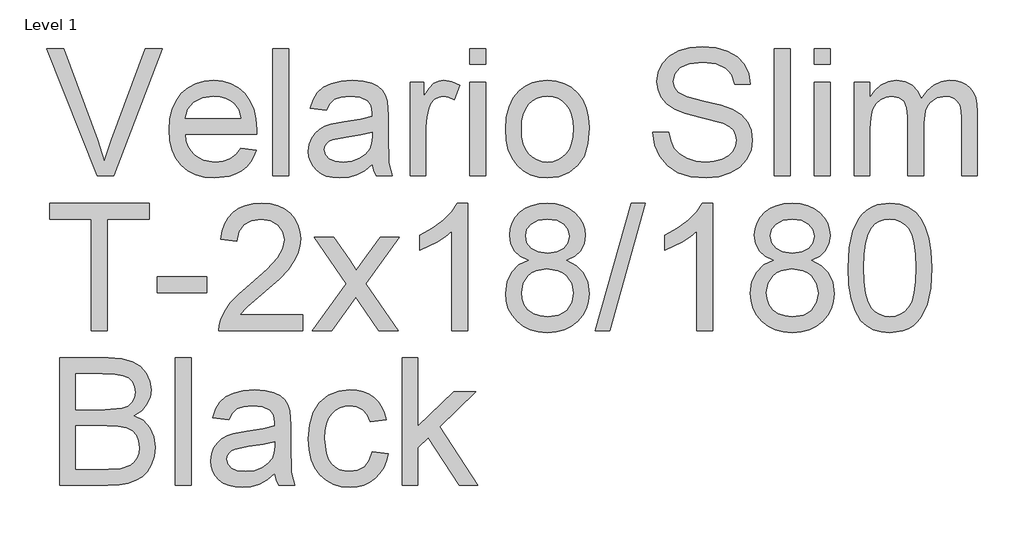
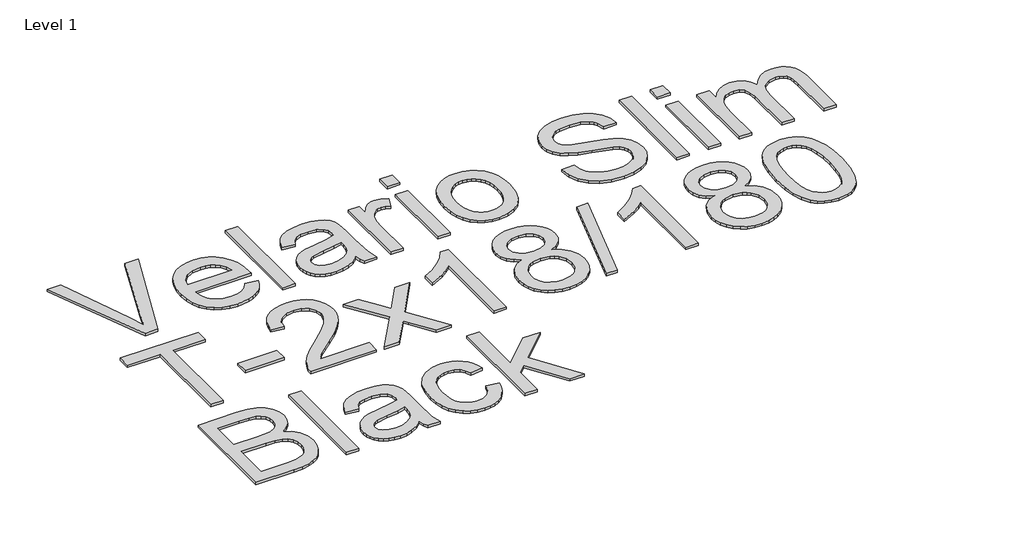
# One storey, part 12 of 13: 1 proxy.
"""IFC4 building model written with IfcOpenShell, lengths in millimetres."""

from ifc_helpers import new_model, si_unit, frame, origin, place, context, project, spatial, polyline, outline, extrude, element, save

model = new_model("IFC4")

# Units and contexts
model_context = context("Model", 3, world=origin())
ifc_project = project(units=[si_unit("LENGTHUNIT", "METRE", prefix="MILLI")], contexts=[model_context])

# Site, building, storey
site = spatial("IfcSite", under=ifc_project)
building = spatial("IfcBuilding", under=site)
storey = spatial("IfcBuildingStorey", under=building, Name="Level 1", Elevation=4000.0)

# Proxy
placement = place(None, origin())
element("IfcBuildingElementProxy", 1, Name="Elysium 400mm Arial", ObjectType="Elysium 400mm Arial", at=placement, inside=storey, context=model_context, shape_type="SweptSolid", body=[
    extrude(outline(polyline([(64801.8504181, -17959.2083158), (64641.9443775, -17557.3830752), (64695.7041998, -17557.3830752), (64802.7333349, -17846.8816799), (64824.4138471, -17912.1194204), (64845.8000538, -17846.8816799), (64953.1234945, -17557.3830752), (65006.8833168, -17557.3830752), (64853.7463049, -17959.2083158), (64801.8504181, -17959.2083158)])), frame((0.0, 0.0, 4000.0), z_axis=(0.0, 0.0, 1.0), x_axis=(1.0, 0.0, 0.0)), (0.0, 0.0, 1.0), 10.0),
    extrude(outline(polyline([(65253.9038138, -17871.3090444), (65303.1509502, -17877.5875638), (65295.6001723, -17897.3121701), (65285.4067753, -17914.6945943), (65272.5707594, -17929.7348366), (65257.0921244, -17942.4328968), (65239.130286, -17952.5189948), (65218.8446596, -17959.7233505), (65171.3020431, -17965.4868351), (65140.1363068, -17963.000566), (65112.3673475, -17955.5417585), (65087.9951653, -17943.1104128), (65067.0197602, -17925.7065287), (65050.1523708, -17903.8144843), (65038.1042354, -17877.9186575), (65030.8753542, -17848.0190484), (65028.4657271, -17814.1156569), (65030.8998797, -17779.0626341), (65038.2023373, -17748.1666779), (65050.3731, -17721.4277882), (65067.4121677, -17698.845965), (65088.3323905, -17680.9055864), (65112.1466183, -17668.0910302), (65138.8548512, -17660.4022965), (65168.457089, -17657.8393853), (65197.1058994, -17660.3961652), (65223.0139889, -17668.0665048), (65246.1813576, -17680.8504041), (65266.6080054, -17698.7478632), (65283.2822568, -17721.2806354), (65295.1924364, -17747.9704741), (65302.3385441, -17778.8173794), (65304.7205801, -17813.8213513), (65304.4262745, -17827.3594087), (65078.6938822, -17827.3594087), (65081.6032157, -17847.402846), (65087.38816, -17864.9569486), (65096.0487153, -17880.0217163), (65107.5848816, -17892.5971492), (65121.3589966, -17902.5115689), (65136.7333983, -17909.5932973), (65172.2830618, -17915.2586801), (65199.0158201, -17912.6344552), (65221.5301982, -17904.7617805), (65239.8261961, -17891.1501466), (65253.9038138, -17871.3090444)]), holes=[polyline([(65078.6938822, -17777.1312536), (65254.492425, -17777.1312536), (65247.6988708, -17750.594699), (65234.3815426, -17731.6119881), (65220.6840696, -17721.3112922), (65205.0981358, -17713.9536523), (65187.623741, -17709.5390684), (65168.2608853, -17708.0675404), (65134.403479, -17712.7641672), (65106.4076592, -17726.8540476), (65086.9467016, -17748.8166027), (65078.6938822, -17777.1312536)])]), frame((0.0, 0.0, 4000.0), z_axis=(0.0, 0.0, 1.0), x_axis=(1.0, 0.0, 0.0)), (0.0, 0.0, 1.0), 10.0),
    extrude(outline(polyline([(65354.9487351, -17959.2083158), (65354.9487351, -17557.3830752), (65405.1768902, -17557.3830752), (65405.1768902, -17959.2083158), (65354.9487351, -17959.2083158)])), frame((0.0, 0.0, 4000.0), z_axis=(0.0, 0.0, 1.0), x_axis=(1.0, 0.0, 0.0)), (0.0, 0.0, 1.0), 10.0),
    extrude(outline(polyline([(65668.8747043, -17921.5371994), (65644.8765355, -17942.1140657), (65620.1671282, -17955.5785467), (65594.1823966, -17963.009763), (65566.358255, -17965.4868351), (65543.9940954, -17963.9969131), (65524.3829194, -17959.5271468), (65507.5247269, -17952.0775364), (65493.4195181, -17941.6480818), (65482.2818907, -17928.9009707), (65474.3264426, -17914.4983906), (65469.5531737, -17898.4403415), (65467.962084, -17880.7268234), (65470.3655797, -17859.9047025), (65477.5760669, -17840.995568), (65488.6983658, -17824.8087602), (65502.8372972, -17812.1536195), (65519.4533006, -17802.5886877), (65538.0068159, -17795.6725062), (65581.4659423, -17788.1186625), (65632.8222688, -17780.1724114), (65668.5803987, -17770.8527342), (65668.8747043, -17759.6691216), (65665.4166136, -17737.2528453), (65655.0423413, -17722.5866165), (65631.8412502, -17711.6973094), (65599.5166855, -17708.0675404), (65569.5956166, -17710.4832988), (65548.6999193, -17717.7305741), (65534.4506233, -17731.1337415), (65524.4687585, -17752.0171761), (65474.2406034, -17745.7386567), (65482.9594067, -17718.2701344), (65495.9701666, -17696.687724), (65514.4868937, -17680.1820851), (65539.7235986, -17667.9438774), (65570.588898, -17660.3655083), (65605.9914086, -17657.8393853), (65639.9469168, -17660.0712027), (65666.8636161, -17666.7666551), (65687.1584395, -17676.834359), (65701.2483199, -17689.1829313), (65710.5925226, -17704.4500341), (65716.6503128, -17723.2733295), (65719.1028594, -17767.2229652), (65719.1028594, -17829.7138534), (65721.6535079, -17916.9754627), (65731.6598982, -17959.2083158), (65681.4317431, -17959.2083158), (65673.3873902, -17941.7461837), (65668.8747043, -17921.5371994)]), holes=[polyline([(65668.8747043, -17821.0808893), (65635.1276627, -17829.4440733), (65587.8425635, -17836.4828822), (65544.6286918, -17844.625337), (65533.3837655, -17850.1926178), (65525.0573697, -17857.8690888), (65519.9070218, -17867.0661387), (65518.1902391, -17877.1951563), (65521.9303727, -17892.1311653), (65533.1507736, -17904.369373), (65551.606187, -17912.5363533), (65577.0513583, -17915.2586801), (65604.0293713, -17912.2543104), (65627.8681246, -17903.2412016), (65647.1941921, -17889.9606615), (65660.6341477, -17874.1539985), (65666.593836, -17857.8690888), (65668.5803987, -17835.3056598), (65668.8747043, -17821.0808893)])]), frame((0.0, 0.0, 4000.0), z_axis=(0.0, 0.0, 1.0), x_axis=(1.0, 0.0, 0.0)), (0.0, 0.0, 1.0), 10.0),
    extrude(outline(polyline([(65788.1665726, -17959.2083158), (65788.1665726, -17664.1179047), (65832.1162083, -17664.1179047), (65832.1162083, -17707.7732348), (65848.3520671, -17682.4629535), (65863.3126015, -17667.55147), (65878.3221869, -17660.2674065), (65894.7051984, -17657.8393853), (65919.7211741, -17661.714409), (65945.1295573, -17673.33948), (65928.3541383, -17718.3682362), (65910.6958025, -17710.6427143), (65893.0374667, -17708.0675404), (65878.0401441, -17710.5446125), (65864.6369767, -17717.9758288), (65853.8089833, -17729.7971036), (65846.5371825, -17745.4443511), (65840.4303414, -17773.5014846), (65838.3947277, -17804.1092666), (65838.3947277, -17959.2083158), (65788.1665726, -17959.2083158)])), frame((0.0, 0.0, 4000.0), z_axis=(0.0, 0.0, 1.0), x_axis=(1.0, 0.0, 0.0)), (0.0, 0.0, 1.0), 10.0),
    extrude(outline(polyline([(65976.5221542, -17607.6112302), (65976.5221542, -17557.3830752), (66026.7503093, -17557.3830752), (66026.7503093, -17607.6112302), (65976.5221542, -17607.6112302)])), frame((0.0, 0.0, 4000.0), z_axis=(0.0, 0.0, 1.0), x_axis=(1.0, 0.0, 0.0)), (0.0, 0.0, 1.0), 10.0),
    extrude(outline(polyline([(65976.5221542, -17959.2083158), (65976.5221542, -17664.1179047), (66026.7503093, -17664.1179047), (66026.7503093, -17959.2083158), (65976.5221542, -17959.2083158)])), frame((0.0, 0.0, 4000.0), z_axis=(0.0, 0.0, 1.0), x_axis=(1.0, 0.0, 0.0)), (0.0, 0.0, 1.0), 10.0),
    extrude(outline(polyline([(66089.5355031, -17811.6631102), (66092.2516985, -17773.4463023), (66100.4002847, -17740.5147324), (66113.9812617, -17712.8684004), (66132.9946295, -17690.5073065), (66152.1367559, -17676.215091), (66173.2654452, -17666.0063656), (66196.3806972, -17659.8811304), (66221.482512, -17657.8393853), (66249.1932233, -17660.3256545), (66274.2490529, -17667.7844619), (66296.6500007, -17680.2158077), (66316.3960668, -17697.6196917), (66332.5123639, -17719.4075029), (66344.0240046, -17744.99063), (66350.9309891, -17774.369073), (66353.2333172, -17807.5428319), (66349.1620898, -17858.2860217), (66336.9484076, -17896.9136312), (66316.9478898, -17925.8414188), (66289.5161557, -17947.4851428), (66256.9340736, -17960.9864121), (66221.482512, -17965.4868351), (66193.3671306, -17963.009763), (66168.0783091, -17955.5785467), (66145.6160476, -17943.1931862), (66125.9803461, -17925.8536815), (66110.0357273, -17903.8543382), (66098.6467138, -17877.4894619), (66091.8133058, -17846.7590526), (66089.5355031, -17811.6631102)]), holes=[polyline([(66139.7636582, -17811.5650084), (66141.2167921, -17835.9279935), (66145.5761937, -17857.0229602), (66152.8418631, -17874.8499086), (66163.0138003, -17889.4088385), (66175.386898, -17900.7181442), (66189.2560493, -17908.7962197), (66204.6212539, -17913.643065), (66221.482512, -17915.2586801), (66238.257931, -17913.6338679), (66253.561822, -17908.7594315), (66267.394185, -17900.6353708), (66279.7550201, -17889.2616857), (66289.9269572, -17874.5586687), (66297.1926266, -17856.4466118), (66301.5520283, -17834.925515), (66303.0051622, -17809.9953785), (66301.5428312, -17786.4049456), (66297.1558384, -17765.8618018), (66289.8441838, -17748.3659473), (66279.6078673, -17733.9173819), (66267.201047, -17722.6080762), (66253.377881, -17714.5300008), (66238.1383694, -17709.6831555), (66221.482512, -17708.0675404), (66204.6212539, -17709.6770241), (66189.2560493, -17714.5054753), (66175.386898, -17722.5528939), (66163.0138003, -17733.81928), (66152.8418631, -17748.3352904), (66145.5761937, -17766.1315819), (66141.2167921, -17787.2081546), (66139.7636582, -17811.5650084)])]), frame((0.0, 0.0, 4000.0), z_axis=(0.0, 0.0, 1.0), x_axis=(1.0, 0.0, 0.0)), (0.0, 0.0, 1.0), 10.0),
    extrude(outline(polyline([(66554.1459375, -17821.0808893), (66604.3740926, -17821.0808893), (66610.1375772, -17848.9540818), (66620.5609004, -17871.3580953), (66636.8212846, -17889.1390584), (66660.0959521, -17903.1430997), (66688.5454931, -17912.229785), (66720.3304975, -17915.2586801), (66748.3140546, -17912.965549), (66772.8149955, -17906.0861556), (66792.6683605, -17895.1968486), (66806.70919, -17880.8739762), (66815.0601112, -17864.4296511), (66817.8437517, -17847.1759855), (66815.759087, -17830.3637783), (66809.5050931, -17815.8324395), (66796.8009016, -17803.4348163), (66775.365644, -17793.0237558), (66702.2307033, -17773.8448411), (66654.222103, -17761.1529123), (66623.5039564, -17749.0741201), (66598.5002434, -17732.1760738), (66580.780594, -17711.6973094), (66570.2223807, -17688.0792853), (66566.7029763, -17661.7634599), (66571.0562466, -17632.345163), (66584.1160574, -17604.9134289), (66605.5390523, -17581.6632868), (66634.9818746, -17564.789766), (66670.3230716, -17554.5258583), (66709.4411904, -17551.1045558), (66751.8211963, -17554.6852739), (66788.9037014, -17565.4274281), (66819.3643306, -17583.1102893), (66841.8787087, -17607.5131284), (66856.1280046, -17637.1153662), (66861.7933874, -17670.3964241), (66811.5652323, -17670.3964241), (66802.3436569, -17640.4263042), (66793.9804729, -17628.5682412), (66783.1156913, -17618.7948429), (66753.0719951, -17605.6982439), (66711.4032277, -17601.3327108), (66668.7534418, -17605.6491929), (66652.450138, -17611.0447955), (66639.4945604, -17618.5986391), (66622.5719886, -17637.6549265), (66616.9311314, -17660.2919319), (66620.9287824, -17679.5934739), (66632.9217354, -17695.1180941), (66661.2731745, -17708.9995081), (66714.9348949, -17723.1752276), (66770.3133979, -17736.6397087), (66803.8151849, -17748.387407), (66832.4486669, -17766.6098285), (66852.4246592, -17789.0996812), (66864.1600949, -17815.6117103), (66868.0719068, -17845.9006612), (66863.5714837, -17876.8640625), (66850.0702145, -17905.9880538), (66828.1199221, -17931.0530804), (66798.2724295, -17949.8395876), (66762.3794095, -17961.5750233), (66722.2925348, -17965.4868351), (66673.0821866, -17961.2684549), (66632.5783789, -17948.6133143), (66600.3151279, -17927.4723623), (66575.8264498, -17897.796548), (66560.1056259, -17861.6460106), (66554.1459375, -17821.0808893)])), frame((0.0, 0.0, 4000.0), z_axis=(0.0, 0.0, 1.0), x_axis=(1.0, 0.0, 0.0)), (0.0, 0.0, 1.0), 10.0),
    extrude(outline(polyline([(66937.13562, -17959.2083158), (66937.13562, -17557.3830752), (66987.3637751, -17557.3830752), (66987.3637751, -17959.2083158), (66937.13562, -17959.2083158)])), frame((0.0, 0.0, 4000.0), z_axis=(0.0, 0.0, 1.0), x_axis=(1.0, 0.0, 0.0)), (0.0, 0.0, 1.0), 10.0),
    extrude(outline(polyline([(67062.7060077, -17607.6112302), (67062.7060077, -17557.3830752), (67112.9341627, -17557.3830752), (67112.9341627, -17607.6112302), (67062.7060077, -17607.6112302)])), frame((0.0, 0.0, 4000.0), z_axis=(0.0, 0.0, 1.0), x_axis=(1.0, 0.0, 0.0)), (0.0, 0.0, 1.0), 10.0),
    extrude(outline(polyline([(67062.7060077, -17959.2083158), (67062.7060077, -17664.1179047), (67112.9341627, -17664.1179047), (67112.9341627, -17959.2083158), (67062.7060077, -17959.2083158)])), frame((0.0, 0.0, 4000.0), z_axis=(0.0, 0.0, 1.0), x_axis=(1.0, 0.0, 0.0)), (0.0, 0.0, 1.0), 10.0),
    extrude(outline(polyline([(67188.2763954, -17959.2083158), (67188.2763954, -17664.1179047), (67238.5045504, -17664.1179047), (67238.5045504, -17712.678328), (67253.6122377, -17690.3724164), (67273.036407, -17672.8980216), (67296.1148709, -17661.6040444), (67322.1854416, -17657.8393853), (67350.1199478, -17661.6776208), (67372.5116985, -17673.1923272), (67389.2380666, -17691.6232152), (67400.1764246, -17716.2099952), (67418.4846852, -17690.6728534), (67439.3681198, -17672.4320378), (67462.8267284, -17661.4875484), (67488.8605109, -17657.8393853), (67508.9683276, -17659.3568985), (67526.6174663, -17663.9094382), (67541.807927, -17671.4970044), (67554.5397098, -17682.119597), (67564.604348, -17695.8998434), (67571.7933753, -17712.9603709), (67576.1067917, -17733.3011796), (67577.5445972, -17756.9222693), (67577.5445972, -17959.2083158), (67527.3164421, -17959.2083158), (67527.3164421, -17778.5046797), (67526.1514825, -17753.4519158), (67522.6566035, -17736.5661323), (67516.108304, -17725.0023749), (67505.7830827, -17715.9156896), (67492.5025426, -17710.0295777), (67477.088287, -17708.0675404), (67449.8772821, -17713.095261), (67427.6939978, -17728.1784228), (67419.0886248, -17739.7483115), (67412.9419298, -17754.3470954), (67408.0245738, -17792.6313483), (67408.0245738, -17959.2083158), (67357.7964187, -17959.2083158), (67357.7964187, -17772.9128734), (67354.890151, -17744.5123834), (67346.1713477, -17724.2543482), (67330.8306685, -17712.1142423), (67308.058773, -17708.0675404), (67288.70818, -17710.7653417), (67270.878166, -17718.8587456), (67256.1628862, -17732.1515483), (67246.1564959, -17750.4475462), (67240.4175368, -17775.8314039), (67238.5045504, -17810.387786), (67238.5045504, -17959.2083158), (67188.2763954, -17959.2083158)])), frame((0.0, 0.0, 4000.0), z_axis=(0.0, 0.0, 1.0), x_axis=(1.0, 0.0, 0.0)), (0.0, 0.0, 1.0), 10.0),
    extrude(outline(polyline([(64783.6034712, -18447.1075871), (64783.6034712, -18095.5105016), (64651.7545641, -18095.5105016), (64651.7545641, -18045.2823465), (64965.6805333, -18045.2823465), (64965.6805333, -18095.5105016), (64833.8316262, -18095.5105016), (64833.8316262, -18447.1075871), (64783.6034712, -18447.1075871)])), frame((0.0, 0.0, 4000.0), z_axis=(0.0, 0.0, 1.0), x_axis=(1.0, 0.0, 0.0)), (0.0, 0.0, 1.0), 10.0),
    extrude(outline(polyline([(64990.7946108, -18327.8157188), (64990.7946108, -18277.5875638), (65147.7575954, -18277.5875638), (65147.7575954, -18327.8157188), (64990.7946108, -18327.8157188)])), frame((0.0, 0.0, 4000.0), z_axis=(0.0, 0.0, 1.0), x_axis=(1.0, 0.0, 0.0)), (0.0, 0.0, 1.0), 10.0),
    extrude(outline(polyline([(65449.1265259, -18396.8794321), (65449.1265259, -18447.1075871), (65185.4287117, -18447.1075871), (65186.5323577, -18429.4247259), (65190.8243143, -18412.4776287), (65203.2096748, -18385.4137765), (65221.3339945, -18359.1592648), (65247.551718, -18331.6784798), (65284.2172902, -18300.9358077), (65338.4185708, -18252.7923173), (65370.9393392, -18217.2549165), (65387.1997234, -18188.4129681), (65392.6198514, -18160.3558346), (65387.5062917, -18135.2049689), (65372.1656125, -18114.2970088), (65348.5843766, -18100.2071284), (65318.7491468, -18095.5105016), (65287.4178635, -18100.0967638), (65263.0763382, -18113.8555504), (65247.367777, -18135.7077409), (65241.9353862, -18164.5742148), (65191.7072311, -18158.2956955), (65196.0267789, -18132.3661462), (65203.8841252, -18109.7107466), (65215.27927, -18090.3294968), (65230.2122133, -18074.2223968), (65248.3395986, -18061.5611248), (65269.3180694, -18052.5173591), (65293.1476256, -18047.0910997), (65319.8282673, -18045.2823465), (65346.7480323, -18047.2934348), (65370.7063473, -18053.3266995), (65391.7032121, -18063.3821407), (65409.7386269, -18077.4597584), (65424.2239805, -18094.5172202), (65434.5706616, -18113.5121939), (65440.7786703, -18134.4446794), (65442.8480065, -18157.3146768), (65440.6161891, -18181.3373711), (65433.9207368, -18204.9431324), (65422.0381483, -18228.953564), (65404.2449225, -18254.1902689), (65375.8812207, -18284.3198043), (65332.2872042, -18323.0087274), (65274.5052055, -18371.3238961), (65251.8436746, -18396.8794321), (65449.1265259, -18396.8794321)])), frame((0.0, 0.0, 4000.0), z_axis=(0.0, 0.0, 1.0), x_axis=(1.0, 0.0, 0.0)), (0.0, 0.0, 1.0), 10.0),
    extrude(outline(polyline([(65480.5191228, -18447.1075871), (65587.8425635, -18298.7775667), (65486.7976422, -18152.0171761), (65547.2283913, -18152.0171761), (65595.9850184, -18222.6505191), (65618.7446511, -18256.0051534), (65638.4631261, -18228.7328348), (65693.9887819, -18152.0171761), (65754.419531, -18152.0171761), (65648.2733126, -18298.7775667), (65750.4954563, -18447.1075871), (65690.0647073, -18447.1075871), (65628.5548377, -18357.9329915), (65617.2731232, -18341.6480818), (65540.9498719, -18447.1075871), (65480.5191228, -18447.1075871)])), frame((0.0, 0.0, 4000.0), z_axis=(0.0, 0.0, 1.0), x_axis=(1.0, 0.0, 0.0)), (0.0, 0.0, 1.0), 10.0),
    extrude(outline(polyline([(65970.2436348, -18447.1075871), (65920.0154797, -18447.1075871), (65920.0154797, -18133.9664328), (65899.046206, -18150.9257928), (65872.436075, -18167.8606273), (65819.5591696, -18193.2199595), (65819.5591696, -18145.7386567), (65859.0083822, -18124.2788736), (65893.1846195, -18098.7478632), (65920.1258443, -18071.5981719), (65937.8700192, -18045.2823465), (65970.2436348, -18045.2823465), (65970.2436348, -18447.1075871)])), frame((0.0, 0.0, 4000.0), z_axis=(0.0, 0.0, 1.0), x_axis=(1.0, 0.0, 0.0)), (0.0, 0.0, 1.0), 10.0),
    extrude(outline(polyline([(66162.7194947, -18225.7897788), (66135.8273208, -18212.546027), (66116.9549745, -18194.5933856), (66105.80815, -18172.2997367), (66102.0925419, -18146.0329623), (66104.1158928, -18125.5480665), (66110.1859458, -18106.7676907), (66120.3027006, -18089.6918347), (66134.4661574, -18074.3204987), (66151.9957345, -18061.6163071), (66172.2108501, -18052.5418846), (66195.1115043, -18047.097231), (66220.6976971, -18045.2823465), (66246.4065172, -18047.1401506), (66269.4788497, -18052.7135628), (66289.9146945, -18062.0025832), (66307.7140517, -18075.0072117), (66322.1350259, -18090.6789847), (66332.4357218, -18107.9694385), (66338.6161393, -18126.8785731), (66340.6762785, -18147.4063884), (66337.0097213, -18172.8270343), (66326.0100496, -18194.7405384), (66307.5546362, -18212.5828152), (66281.5208536, -18225.7897788), (66312.435204, -18241.7190692), (66334.9373193, -18265.1776778), (66348.6593178, -18295.0374331), (66353.2333172, -18330.1701636), (66350.9647116, -18355.2229275), (66344.1588947, -18378.1910267), (66332.8158665, -18399.0744613), (66316.935627, -18417.8732312), (66297.3520422, -18433.4101142), (66274.8989777, -18444.5078877), (66249.5764337, -18451.1665518), (66221.3844102, -18453.3861065), (66193.1923866, -18451.1573548), (66167.8698426, -18444.4710995), (66145.4167782, -18433.3273407), (66125.8331933, -18417.7260784), (66109.9529538, -18398.7954841), (66098.6099256, -18377.6637292), (66091.8041087, -18354.3308136), (66089.5355031, -18328.7967375), (66094.2934436, -18292.3028436), (66108.567265, -18262.2836728), (66131.6212033, -18239.7692946), (66162.7194947, -18225.7897788)]), holes=[polyline([(66152.3206969, -18147.5044903), (66156.7720691, -18169.4302572), (66170.1261855, -18186.9414401), (66191.9906388, -18198.4193584), (66221.9730214, -18202.2453311), (66251.2564282, -18198.4438839), (66272.7897876, -18187.039542), (66286.0335395, -18170.1169702), (66290.4481234, -18149.7608332), (66285.8863867, -18128.6321439), (66272.2011764, -18111.1577491), (66250.3735114, -18099.4223135), (66221.3844102, -18095.5105016), (66192.2113679, -18099.3364744), (66170.4204911, -18110.8143926), (66156.8456455, -18127.6388625), (66152.3206969, -18147.5044903)]), polyline([(66139.7636582, -18327.0309039), (66141.8605855, -18346.2466068), (66148.1513677, -18364.849173), (66159.764176, -18381.072769), (66177.8271819, -18393.1515612), (66199.4586433, -18400.6563539), (66221.7768176, -18403.1579514), (66255.9653177, -18397.8972389), (66269.8589944, -18391.3213482), (66281.6189555, -18382.1151013), (66297.6586105, -18358.2150344), (66303.0051622, -18328.6005338), (66297.4869322, -18298.4832611), (66280.9322425, -18274.0558966), (66268.8534503, -18264.6135921), (66254.6899935, -18257.8690888), (66220.1090859, -18252.4734862), (66186.3988324, -18257.7955124), (66172.6615056, -18264.4480452), (66161.002712, -18273.761591), (66145.0734216, -18297.7229716), (66139.7636582, -18327.0309039)])]), frame((0.0, 0.0, 4000.0), z_axis=(0.0, 0.0, 1.0), x_axis=(1.0, 0.0, 0.0)), (0.0, 0.0, 1.0), 10.0),
    extrude(outline(polyline([(66372.0688754, -18447.1075871), (66485.0822243, -18045.2823465), (66530.4052861, -18045.2823465), (66417.3919372, -18447.1075871), (66372.0688754, -18447.1075871)])), frame((0.0, 0.0, 4000.0), z_axis=(0.0, 0.0, 1.0), x_axis=(1.0, 0.0, 0.0)), (0.0, 0.0, 1.0), 10.0),
    extrude(outline(polyline([(66742.5015191, -18447.1075871), (66692.273364, -18447.1075871), (66692.273364, -18133.9664328), (66671.3040903, -18150.9257928), (66644.6939593, -18167.8606273), (66591.8170538, -18193.2199595), (66591.8170538, -18145.7386567), (66631.2662665, -18124.2788736), (66665.4425038, -18098.7478632), (66692.3837286, -18071.5981719), (66710.1279035, -18045.2823465), (66742.5015191, -18045.2823465), (66742.5015191, -18447.1075871)])), frame((0.0, 0.0, 4000.0), z_axis=(0.0, 0.0, 1.0), x_axis=(1.0, 0.0, 0.0)), (0.0, 0.0, 1.0), 10.0),
    extrude(outline(polyline([(66934.9773789, -18225.7897788), (66908.0852051, -18212.546027), (66889.2128587, -18194.5933856), (66878.0660343, -18172.2997367), (66874.3504261, -18146.0329623), (66876.3737771, -18125.5480665), (66882.44383, -18106.7676907), (66892.5605849, -18089.6918347), (66906.7240417, -18074.3204987), (66924.2536188, -18061.6163071), (66944.4687344, -18052.5418846), (66967.3693886, -18047.097231), (66992.9555814, -18045.2823465), (67018.6644015, -18047.1401506), (67041.7367339, -18052.7135628), (67062.1725788, -18062.0025832), (67079.971936, -18075.0072117), (67094.3929102, -18090.6789847), (67104.6936061, -18107.9694385), (67110.8740236, -18126.8785731), (67112.9341627, -18147.4063884), (67109.2676055, -18172.8270343), (67098.2679339, -18194.7405384), (67079.8125204, -18212.5828152), (67053.7787379, -18225.7897788), (67084.6930882, -18241.7190692), (67107.1952036, -18265.1776778), (67120.917202, -18295.0374331), (67125.4912015, -18330.1701636), (67123.2225959, -18355.2229275), (67116.416779, -18378.1910267), (67105.0737508, -18399.0744613), (67089.1935113, -18417.8732312), (67069.6099264, -18433.4101142), (67047.156862, -18444.5078877), (67021.834318, -18451.1665518), (66993.6422944, -18453.3861065), (66965.4502709, -18451.1573548), (66940.1277269, -18444.4710995), (66917.6746624, -18433.3273407), (66898.0910776, -18417.7260784), (66882.2108381, -18398.7954841), (66870.8678099, -18377.6637292), (66864.061993, -18354.3308136), (66861.7933874, -18328.7967375), (66866.5513278, -18292.3028436), (66880.8251493, -18262.2836728), (66903.8790876, -18239.7692946), (66934.9773789, -18225.7897788)]), holes=[polyline([(66924.5785812, -18147.5044903), (66929.0299534, -18169.4302572), (66942.3840698, -18186.9414401), (66964.248523, -18198.4193584), (66994.2309056, -18202.2453311), (67023.5143125, -18198.4438839), (67045.0476719, -18187.039542), (67058.2914237, -18170.1169702), (67062.7060077, -18149.7608332), (67058.1442709, -18128.6321439), (67044.4590607, -18111.1577491), (67022.6313957, -18099.4223135), (66993.6422944, -18095.5105016), (66964.4692522, -18099.3364744), (66942.6783754, -18110.8143926), (66929.1035298, -18127.6388625), (66924.5785812, -18147.5044903)]), polyline([(66912.0215424, -18327.0309039), (66914.1184698, -18346.2466068), (66920.4092519, -18364.849173), (66932.0220602, -18381.072769), (66950.0850662, -18393.1515612), (66971.7165275, -18400.6563539), (66994.0347019, -18403.1579514), (67028.223202, -18397.8972389), (67042.1168787, -18391.3213482), (67053.8768398, -18382.1151013), (67069.9164948, -18358.2150344), (67075.2630464, -18328.6005338), (67069.7448165, -18298.4832611), (67053.1901267, -18274.0558966), (67041.1113346, -18264.6135921), (67026.9478777, -18257.8690888), (66992.3669702, -18252.4734862), (66958.6567167, -18257.7955124), (66944.9193899, -18264.4480452), (66933.2605963, -18273.761591), (66917.3313059, -18297.7229716), (66912.0215424, -18327.0309039)])]), frame((0.0, 0.0, 4000.0), z_axis=(0.0, 0.0, 1.0), x_axis=(1.0, 0.0, 0.0)), (0.0, 0.0, 1.0), 10.0),
    extrude(outline(polyline([(67169.4408372, -18249.4323284), (67173.1319199, -18185.1142929), (67184.2051679, -18133.81928), (67202.5502168, -18094.7624749), (67214.4082797, -18079.5290946), (67228.0567018, -18067.1590625), (67243.5414681, -18057.5879993), (67260.9085639, -18050.7515255), (67301.2897443, -18045.2823465), (67332.2408828, -18048.5197081), (67359.9546598, -18058.2317928), (67383.1312255, -18074.0384558), (67400.4707302, -18095.5595525), (67413.5673292, -18122.6111419), (67424.0151779, -18155.009283), (67430.857783, -18196.1507528), (67433.1386513, -18249.4323284), (67429.4843569, -18313.3824819), (67418.5214734, -18364.5548674), (67400.2867892, -18403.6484608), (67388.4563173, -18418.9278263), (67374.8170924, -18431.3622377), (67359.313932, -18440.9976803), (67341.8916538, -18447.8801393), (67301.2897443, -18453.3861065), (67273.6250182, -18450.9948735), (67249.0995519, -18443.8211746), (67227.7133452, -18431.8650098), (67209.4663983, -18415.126379), (67191.9552153, -18384.8680849), (67179.4472275, -18347.1663118), (67171.9424348, -18302.0210596), (67169.4408372, -18249.4323284)]), holes=[polyline([(67219.6689923, -18249.3342265), (67221.1405203, -18292.9987537), (67225.5551042, -18328.3430164), (67232.9127441, -18355.3670146), (67243.21344, -18374.0707484), (67255.6723769, -18386.7963997), (67269.5047399, -18395.8861507), (67284.710529, -18401.3400012), (67301.2897443, -18403.1579514), (67317.8689595, -18401.3338699), (67333.0747487, -18395.8616252), (67346.9071117, -18386.7412174), (67359.3660486, -18373.9726465), (67369.6667444, -18355.2382559), (67377.0243843, -18328.220389), (67381.4389683, -18292.9190459), (67382.9104963, -18249.3342265), (67381.4880192, -18206.825462), (67377.2205881, -18172.103533), (67370.1082028, -18145.1684396), (67360.1508635, -18126.0201817), (67347.9003931, -18112.6721967), (67333.9086145, -18103.1379216), (67318.1755279, -18097.4173566), (67300.7011331, -18095.5105016), (67284.207757, -18097.1904961), (67269.2594852, -18102.2304794), (67255.8563179, -18110.6304516), (67243.9982549, -18122.3904127), (67233.3542025, -18143.2370591), (67225.7513079, -18171.3432435), (67221.1895712, -18206.708966), (67219.6689923, -18249.3342265)])]), frame((0.0, 0.0, 4000.0), z_axis=(0.0, 0.0, 1.0), x_axis=(1.0, 0.0, 0.0)), (0.0, 0.0, 1.0), 10.0),
    extrude(outline(polyline([(64683.147161, -18935.0068585), (64683.147161, -18533.1816179), (64836.4803766, -18533.1816179), (64878.651916, -18536.1369366), (64911.5773545, -18545.0028927), (64936.8140594, -18560.0002154), (64955.9193977, -18581.3496338), (64967.9491389, -18606.4637114), (64971.9590527, -18632.7550113), (64968.5868011, -18656.9493838), (64958.4700462, -18679.6967539), (64941.5352117, -18699.5991698), (64917.7087211, -18715.2586801), (64946.1705248, -18730.1211127), (64967.2011122, -18752.7335926), (64980.1873466, -18781.6000665), (64984.5160914, -18815.2244809), (64981.5607728, -18843.2448262), (64972.6948167, -18869.2295578), (64959.4633276, -18891.327003), (64943.4114099, -18907.685489), (64923.7542486, -18919.5312892), (64899.7070288, -18928.090677), (64870.4849357, -18933.2778131), (64835.3031542, -18935.0068585), (64683.147161, -18935.0068585)]), holes=[polyline([(64733.3753161, -18696.4231219), (64825.1005602, -18696.4231219), (64878.6641787, -18692.1066398), (64897.4138977, -18684.6631608), (64910.8906415, -18673.5163363), (64919.0208336, -18658.8378447), (64921.7308976, -18640.7993642), (64919.2047746, -18623.2881813), (64911.6264055, -18608.0333412), (64899.3391468, -18596.1262273), (64882.6863552, -18588.6582228), (64857.1308193, -18584.7218854), (64818.1353278, -18583.409773), (64733.3753161, -18583.409773), (64733.3753161, -18696.4231219)]), polyline([(64733.3753161, -18884.7787034), (64836.3822747, -18884.7787034), (64873.6609836, -18882.8166661), (64905.2007333, -18871.8783081), (64916.7767534, -18862.4482663), (64926.0964306, -18849.5601338), (64932.2400599, -18833.7902589), (64934.2879364, -18815.7149902), (64931.8844407, -18794.721191), (64924.6739536, -18776.6704478), (64912.0801266, -18762.5560419), (64893.5266113, -18753.3712548), (64867.2475741, -18748.3312714), (64831.4771815, -18746.651277), (64733.3753161, -18746.651277), (64733.3753161, -18884.7787034)])]), frame((0.0, 0.0, 4000.0), z_axis=(0.0, 0.0, 1.0), x_axis=(1.0, 0.0, 0.0)), (0.0, 0.0, 1.0), 10.0),
    extrude(outline(polyline([(65047.3012853, -18935.0068585), (65047.3012853, -18533.1816179), (65097.5294404, -18533.1816179), (65097.5294404, -18935.0068585), (65047.3012853, -18935.0068585)])), frame((0.0, 0.0, 4000.0), z_axis=(0.0, 0.0, 1.0), x_axis=(1.0, 0.0, 0.0)), (0.0, 0.0, 1.0), 10.0),
    extrude(outline(polyline([(65361.2272545, -18897.3357422), (65337.2290857, -18917.9126085), (65312.5196783, -18931.3770895), (65286.5349468, -18938.8083058), (65258.7108052, -18941.2853779), (65236.3466456, -18939.7954558), (65216.7354695, -18935.3256896), (65199.8772771, -18927.8760792), (65185.7720683, -18917.4466246), (65174.6344409, -18904.6995135), (65166.6789927, -18890.2969334), (65161.9057238, -18874.2388843), (65160.3146342, -18856.5253662), (65162.7181299, -18835.7032453), (65169.928617, -18816.7941107), (65181.050916, -18800.6073029), (65195.1898474, -18787.9521623), (65211.8058508, -18778.3872304), (65230.3593661, -18771.4710489), (65273.8184925, -18763.9172053), (65325.174819, -18755.9709542), (65360.9329489, -18746.651277), (65361.2272545, -18735.4676643), (65357.7691638, -18713.0513881), (65347.3948915, -18698.3851592), (65324.1938003, -18687.4958522), (65291.8692357, -18683.8660831), (65261.9481667, -18686.2818416), (65241.0524694, -18693.5291169), (65226.8031735, -18706.9322842), (65216.8213087, -18727.8157188), (65166.5931536, -18721.5371994), (65175.3119569, -18694.0686771), (65188.3227168, -18672.4862668), (65206.8394439, -18655.9806279), (65232.0761487, -18643.7424202), (65262.9414481, -18636.1640511), (65298.3439588, -18633.6379281), (65332.299467, -18635.8697455), (65359.2161663, -18642.5651978), (65379.5109897, -18652.6329017), (65393.6008701, -18664.9814741), (65402.9450728, -18680.2485769), (65409.002863, -18699.0718723), (65411.4554096, -18743.021508), (65411.4554096, -18805.5123962), (65414.0060581, -18892.7740055), (65424.0124484, -18935.0068585), (65373.7842933, -18935.0068585), (65365.7399403, -18917.5447265), (65361.2272545, -18897.3357422)]), holes=[polyline([(65361.2272545, -18796.8794321), (65327.4802128, -18805.2426161), (65280.1951137, -18812.2814249), (65236.981242, -18820.4238797), (65225.7363157, -18825.9911606), (65217.4099199, -18833.6676316), (65212.2595719, -18842.8646815), (65210.5427893, -18852.9936991), (65214.2829229, -18867.9297081), (65225.5033238, -18880.1679158), (65243.9587372, -18888.3348961), (65269.4039085, -18891.0572228), (65296.3819215, -18888.0528532), (65320.2206748, -18879.0397443), (65339.5467423, -18865.7592043), (65352.9866978, -18849.9525412), (65358.9463861, -18833.6676316), (65360.9329489, -18811.1042025), (65361.2272545, -18796.8794321)])]), frame((0.0, 0.0, 4000.0), z_axis=(0.0, 0.0, 1.0), x_axis=(1.0, 0.0, 0.0)), (0.0, 0.0, 1.0), 10.0),
    extrude(outline(polyline([(65668.8747043, -18828.272029), (65719.1028594, -18834.5505484), (65713.6398118, -18858.2513459), (65705.0988181, -18879.2236853), (65693.4798785, -18897.4675666), (65678.7829927, -18912.9829897), (65661.627429, -18925.3652846), (65642.6324554, -18934.2097809), (65621.7980717, -18939.5164786), (65599.1242781, -18941.2853779), (65570.9537143, -18938.8175028), (65545.6955496, -18931.4138777), (65523.3497841, -18919.0745024), (65503.9164177, -18901.7993771), (65488.1863967, -18879.9134641), (65476.9506675, -18853.7417258), (65470.2092299, -18823.2841623), (65467.962084, -18788.5407735), (65471.8003195, -18743.8431111), (65483.315026, -18705.105137), (65502.6901444, -18673.8229047), (65530.1096158, -18651.4924676), (65562.912427, -18638.1015629), (65598.437565, -18633.6379281), (65620.7220169, -18635.1707697), (65640.8788845, -18639.7692946), (65658.908168, -18647.4335029), (65674.8098672, -18658.1633944), (65688.3142021, -18671.7137146), (65699.1513925, -18687.8392087), (65707.3214385, -18706.5398768), (65712.82434, -18727.8157188), (65662.596185, -18734.0942382), (65653.4849742, -18712.180734), (65639.2969919, -18696.4721728), (65620.817053, -18687.0176056), (65598.8299725, -18683.8660831), (65581.7633136, -18685.4173189), (65566.3705178, -18690.0710261), (65552.651585, -18697.8272049), (65540.6065154, -18708.6858551), (65530.7993945, -18722.8983628), (65523.7943082, -18740.7161141), (65519.5912564, -18762.139109), (65518.1902391, -18787.1673474), (65523.6716808, -18834.24398), (65530.523483, -18852.181293), (65540.116006, -18866.3846037), (65551.9219524, -18877.1788746), (65565.4140246, -18884.889068), (65580.5922226, -18889.5151841), (65597.4565463, -18891.0572228), (65623.4658034, -18887.2067246), (65644.7906964, -18875.65523), (65660.3030539, -18856.1084333), (65668.8747043, -18828.272029)])), frame((0.0, 0.0, 4000.0), z_axis=(0.0, 0.0, 1.0), x_axis=(1.0, 0.0, 0.0)), (0.0, 0.0, 1.0), 10.0),
    extrude(outline(polyline([(65763.0524951, -18935.0068585), (65763.0524951, -18533.1816179), (65813.2806502, -18533.1816179), (65813.2806502, -18749.1038236), (65925.9015916, -18639.9164474), (65995.3577123, -18639.9164474), (65881.3633448, -18750.4772497), (66001.6362317, -18935.0068585), (65942.9713162, -18935.0068585), (65845.3599602, -18785.4015138), (65813.2806502, -18816.4998051), (65813.2806502, -18935.0068585), (65763.0524951, -18935.0068585)])), frame((0.0, 0.0, 4000.0), z_axis=(0.0, 0.0, 1.0), x_axis=(1.0, 0.0, 0.0)), (0.0, 0.0, 1.0), 10.0),
])

save(model, "model.ifc")
